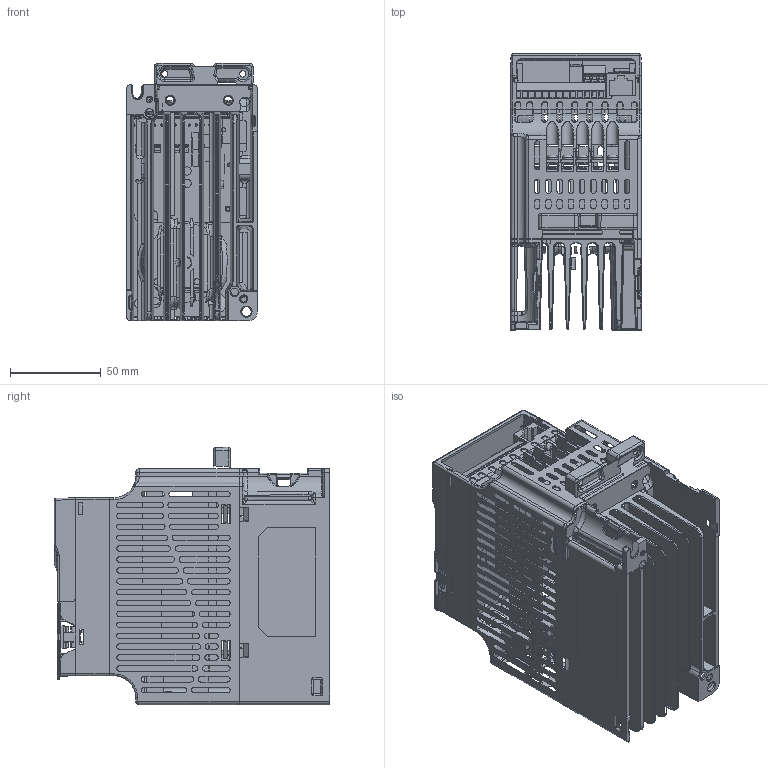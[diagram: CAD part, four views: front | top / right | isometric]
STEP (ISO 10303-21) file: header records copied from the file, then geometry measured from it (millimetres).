
FILE_DESCRIPTION((''),'2;1');
FILE_NAME('VFD-E1_SW0001','2016-11-29T',('PRANDTL.TSAI'),(''),'PRO/ENGINEER BY PARAMETRIC TECHNOLOGY CORPORATION, 2015240','PRO/ENGINEER BY PARAMETRIC TECHNOLOGY CORPORATION, 2015240','');
FILE_SCHEMA(('CONFIG_CONTROL_DESIGN'));
Products named in the file (1): VFD-E1_SW0001
Bounding box: 72 x 152 x 141.84 mm (x, y, z)
Surface area: 151943.9 mm2 (no closed solid volume)
Topology: 0 solids, 314 shells, 1046 faces, 7116 edges, 6294 vertices
Faces by surface type: plane 587, cylinder 274, bspline 99, torus 65, cone 12, sphere 7, extrusion 2
Entity records: 78546 total; most frequent: CARTESIAN_POINT 28438, DIRECTION 9440, ORIENTED_EDGE 8311, EDGE_CURVE 7116, VERTEX_POINT 6295, VECTOR 4530, LINE 4528, AXIS2_PLACEMENT_3D 2455
